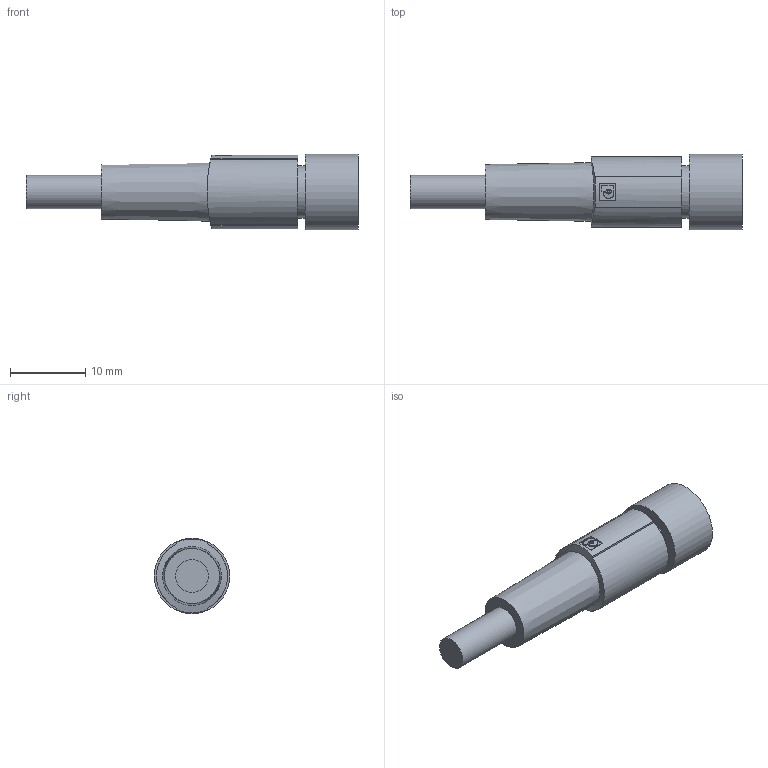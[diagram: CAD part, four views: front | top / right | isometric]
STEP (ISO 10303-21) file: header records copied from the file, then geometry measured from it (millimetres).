
FILE_DESCRIPTION( ( 'Unknown' ), '1' );
FILE_NAME( '//baumernet.org/ch01apps/SolidEdge/Models/Dokumentationen/_Standardteile/Kabeldosen/Phoenix/ES 32/Vereinfachte Modelle/Neutralformate/ESG 32SH.stp', 'Unknown', ( 'Unknown' ), ( 'Unknown' ), 'PSStep 10.0', 'Unknown', ' ' );
FILE_SCHEMA( ( 'AUTOMOTIVE_DESIGN { 1 0 10303 214 1 1 1 1 }' ) );
Length unit declared in the file: millimetre
Products named in the file (1): 1669712
Bounding box: 44 x 10 x 10 mm (x, y, z)
Volume: 2097.1 mm3; surface area: 1555.9 mm2
Topology: 1 solids, 1 shells, 68 faces, 163 edges, 110 vertices
Faces by surface type: plane 29, cylinder 22, extrusion 15, cone 2
Full cylindrical faces by diameter (mm): 1.2 x3, 4.4 x1, 6.9 x1, 7.2 x1, 10 x1
Entity records: 4994 total; most frequent: CARTESIAN_POINT 2933, ORIENTED_EDGE 308, DIRECTION 267, EDGE_CURVE 154, VERTEX_POINT 110, AXIS2_PLACEMENT_3D 94, EDGE_LOOP 90, VECTOR 79
